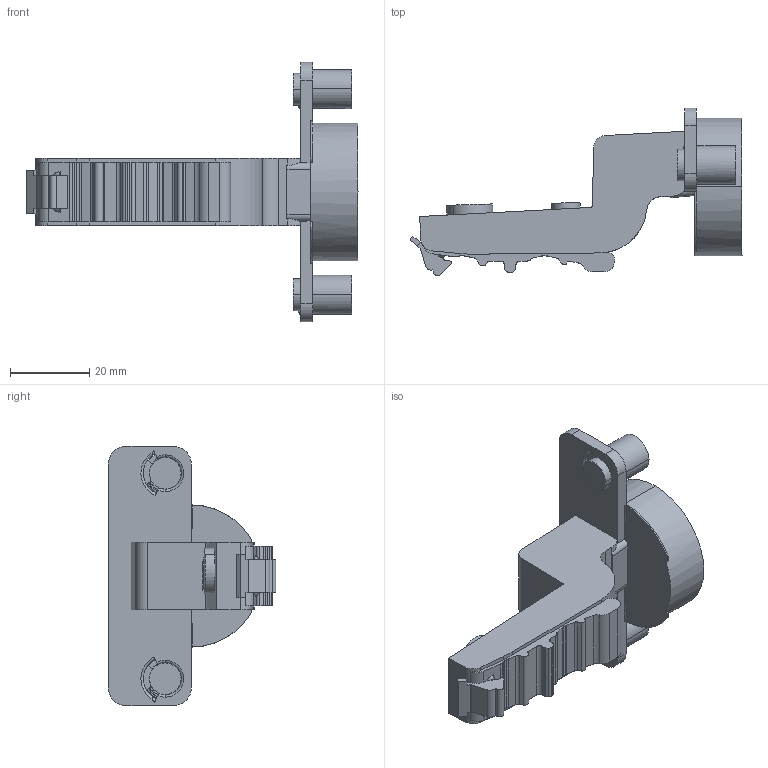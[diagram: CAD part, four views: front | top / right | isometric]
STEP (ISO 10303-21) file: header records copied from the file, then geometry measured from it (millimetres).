
FILE_DESCRIPTION (( 'STEP AP203' ), '1' );
FILE_NAME ('C82C677T0FA-DTC 3D close.STEP', '2024-07-10T09:08:15', ( '微软用户' ), ( '微软中国' ), 'SwSTEP 2.0', 'SolidWorks 2021', '' );
FILE_SCHEMA (( 'CONFIG_CONTROL_DESIGN' ));
Length unit declared in the file: millimetre
Products named in the file (1): C82C677T0FA-DTC 3D close
Bounding box: 84 x 42.33 x 65.56 mm (x, y, z)
Volume: 35727.8 mm3; surface area: 11800.9 mm2
Topology: 1 solids, 6 shells, 356 faces, 974 edges, 632 vertices
Faces by surface type: cylinder 148, plane 136, torus 54, bspline 14, cone 4
Entity records: 11956 total; most frequent: CARTESIAN_POINT 2838, ORIENTED_EDGE 1948, DIRECTION 1915, EDGE_CURVE 974, AXIS2_PLACEMENT_3D 723, VERTEX_POINT 632, LINE 469, VECTOR 469
